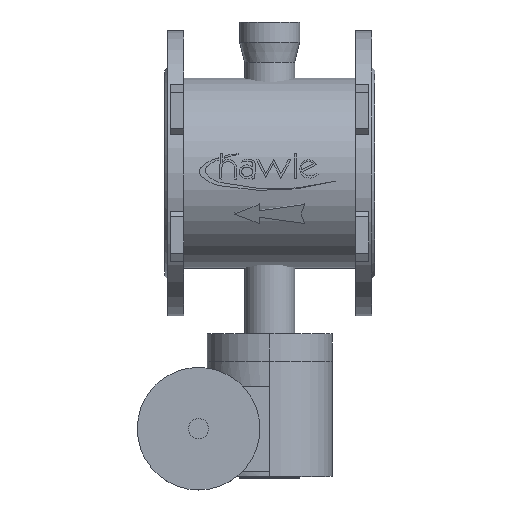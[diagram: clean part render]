
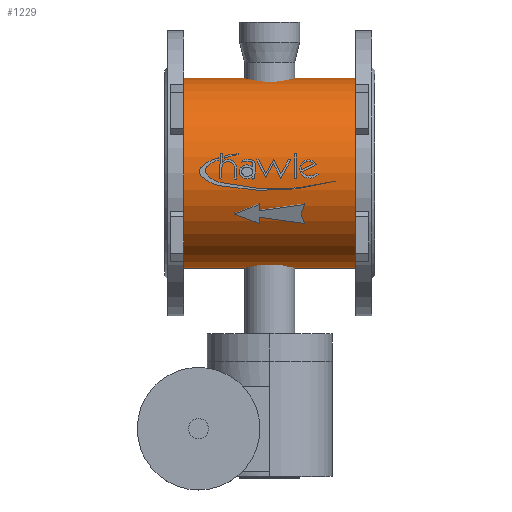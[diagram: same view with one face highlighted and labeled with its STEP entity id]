
A CAD part, top view. The second image highlights one B-rep face of the part: STEP entity #1229.
In plain terms, the highlighted cylindrical face has radius 95 mm (diameter 190 mm), a partial arc.
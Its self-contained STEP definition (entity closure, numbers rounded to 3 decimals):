
#1229=ADVANCED_FACE('',(#2391),#2392,.T.);
#2391=FACE_OUTER_BOUND('',#3773,.T.);
#2392=CYLINDRICAL_SURFACE('',#3774,95.0);
#3773=EDGE_LOOP('',(#5918,#5919,#5920,#5921));
#3774=AXIS2_PLACEMENT_3D('',#5922,#5923,#5924);
#5918=ORIENTED_EDGE('',*,*,#7322,.T.);
#5919=ORIENTED_EDGE('',*,*,#8068,.T.);
#5920=ORIENTED_EDGE('',*,*,#7324,.T.);
#5921=ORIENTED_EDGE('',*,*,#7987,.T.);
#5922=CARTESIAN_POINT('',(-191.0,0.,0.0));
#5923=DIRECTION('',(1.0,0.,0.0));
#5924=DIRECTION('',(0.,-1.0,0.0));
#7322=EDGE_CURVE('',#8543,#8544,#8545,.T.);
#7324=EDGE_CURVE('',#8548,#8546,#8549,.T.);
#7987=EDGE_CURVE('',#8546,#8543,#9585,.T.);
#8068=EDGE_CURVE('',#8544,#8548,#9687,.T.);
#8543=VERTEX_POINT('',#10244);
#8544=VERTEX_POINT('',#10245);
#8545=LINE('',#10246,#10247);
#8546=VERTEX_POINT('',#10248);
#8548=VERTEX_POINT('',#10250);
#8549=LINE('',#10251,#10252);
#9585=CIRCLE('',#11633,95.0);
#9687=CIRCLE('',#11764,95.0);
#10244=CARTESIAN_POINT('',(-191.0,-95.0,0.0));
#10245=CARTESIAN_POINT('',(-19.0,-95.0,0.0));
#10246=CARTESIAN_POINT('',(-191.0,-95.0,0.));
#10247=VECTOR('',#12347,1.0);
#10248=CARTESIAN_POINT('',(-191.0,95.0,0.));
#10250=CARTESIAN_POINT('',(-19.0,95.0,0.));
#10251=CARTESIAN_POINT('',(-191.0,95.0,0.));
#10252=VECTOR('',#12351,1.0);
#11633=AXIS2_PLACEMENT_3D('',#13286,#13287,#13288);
#11764=AXIS2_PLACEMENT_3D('',#13387,#13388,#13389);
#12347=DIRECTION('',(1.0,0.,0.0));
#12351=DIRECTION('',(-1.0,0.,-0.0));
#13286=CARTESIAN_POINT('',(-191.0,0.,0.0));
#13287=DIRECTION('',(1.0,0.,0.0));
#13288=DIRECTION('',(0.,-1.0,0.0));
#13387=CARTESIAN_POINT('',(-19.0,0.,0.0));
#13388=DIRECTION('',(-1.0,0.,0.0));
#13389=DIRECTION('',(0.,-1.0,0.0));
